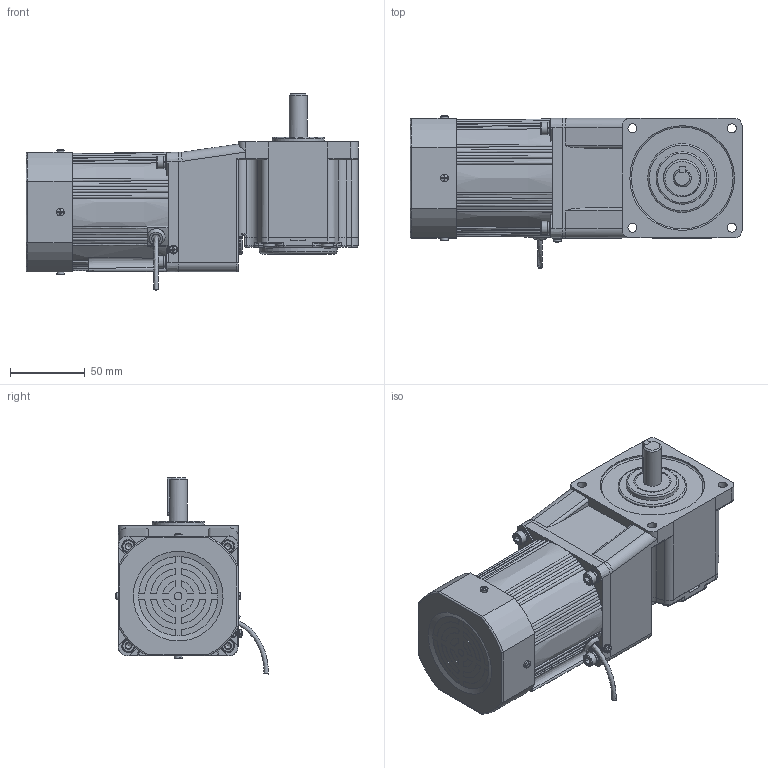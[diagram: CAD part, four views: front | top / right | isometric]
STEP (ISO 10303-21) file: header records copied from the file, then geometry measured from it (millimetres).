
FILE_DESCRIPTION(/* description */ (''),/* implementation_level */ '2;1');
FILE_NAME(/* name */ '80+中实直角-风叶-25-40W 新版.stp',/* time_stamp */ '2025-03-24T15:10:41+08:00',/* author */ (''),/* organization */ (''),/* preprocessor_version */ 'ST-DEVELOPER v18.102',/* originating_system */ 'SIEMENS PLM Software NX 2027',/* authorisation */ '');
FILE_SCHEMA (('AP203_CONFIGURATION_CONTROLLED_3D_DESIGN_OF_MECHANICAL_PARTS_AND_ASSEMBLIES_MIM_LF { 1 0 10303 403 2 1 2}'));
Length unit declared in the file: millimetre
Products named in the file (1): 4RK25-30CC·F-4GN3-20K-C·10L_stp_objects
Bounding box: 222 x 102.23 x 131.06 mm (x, y, z)
Volume: 1210871.4 mm3; surface area: 122785.1 mm2
Topology: 16 solids, 16 shells, 1053 faces, 2641 edges, 1652 vertices
Faces by surface type: plane 431, cylinder 269, bspline 160, cone 87, torus 80, sphere 20, revolution 6
Full cylindrical faces by diameter (mm): 2.6 x1, 3.2 x1, 4.2 x4, 4.4 x1, 4.826 x4, 5 x10, 5.1 x5, 5.3 x4, 5.849 x1, 6 x10, 8 x4, 8.5 x4, 9 x4, 10.5 x1, 12 x2, 19 x1, 25 x1, 26 x1, 35 x1, 46 x1, 52 x1, 56 x1, 67 x1, 70 x1, 75 x1, 76 x1, 77.5 x1
Entity records: 37161 total; most frequent: CARTESIAN_POINT 14260, ORIENTED_EDGE 4884, DIRECTION 4090, EDGE_CURVE 2442, AXIS2_PLACEMENT_3D 1617, VERTEX_POINT 1589, EDGE_LOOP 1299, ADVANCED_FACE 1051
